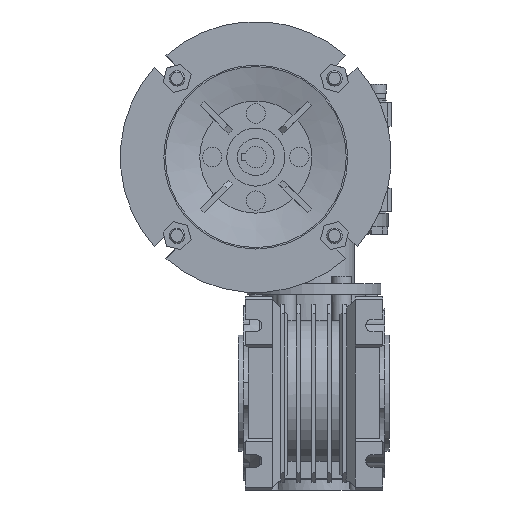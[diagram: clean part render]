
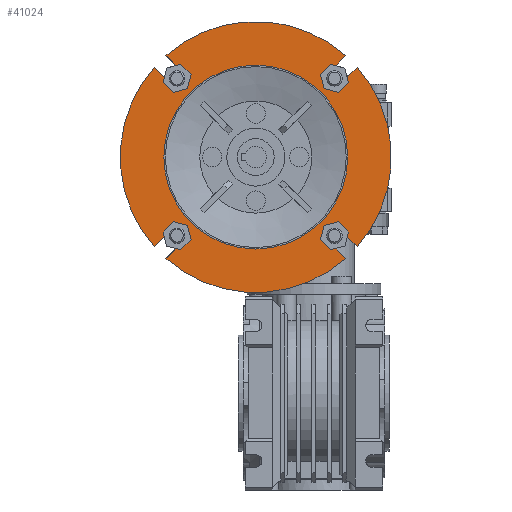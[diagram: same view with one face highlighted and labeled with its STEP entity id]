
A CAD part, front view. The second image highlights one B-rep face of the part: STEP entity #41024.
In plain terms, the highlighted planar face has unit normal (0, -1, 0) as drawn and (1, 0, 0) by its records, which use the part's own axes.
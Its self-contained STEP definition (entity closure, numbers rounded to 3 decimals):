
#1641=CIRCLE('',#43738,70.);
#1642=CIRCLE('',#43740,70.);
#1643=CIRCLE('',#43742,70.);
#1648=CIRCLE('',#43752,70.);
#1649=CIRCLE('',#43754,47.5);
#1650=CIRCLE('',#43755,4.25);
#1651=CIRCLE('',#43756,4.25);
#1652=CIRCLE('',#43757,4.25);
#1653=CIRCLE('',#43758,4.25);
#9638=ORIENTED_EDGE('',*,*,#14190,.F.);
#9639=ORIENTED_EDGE('',*,*,#14191,.T.);
#9640=ORIENTED_EDGE('',*,*,#14188,.T.);
#9641=ORIENTED_EDGE('',*,*,#14192,.T.);
#9642=ORIENTED_EDGE('',*,*,#14193,.F.);
#9643=ORIENTED_EDGE('',*,*,#14194,.T.);
#9644=ORIENTED_EDGE('',*,*,#14174,.T.);
#9645=ORIENTED_EDGE('',*,*,#14195,.T.);
#9646=ORIENTED_EDGE('',*,*,#14196,.F.);
#9647=ORIENTED_EDGE('',*,*,#14197,.T.);
#9648=ORIENTED_EDGE('',*,*,#14181,.T.);
#9649=ORIENTED_EDGE('',*,*,#14198,.T.);
#9650=ORIENTED_EDGE('',*,*,#14199,.F.);
#9651=ORIENTED_EDGE('',*,*,#14200,.T.);
#9652=ORIENTED_EDGE('',*,*,#14178,.T.);
#9653=ORIENTED_EDGE('',*,*,#14201,.T.);
#9654=ORIENTED_EDGE('',*,*,#14202,.F.);
#14174=EDGE_CURVE('',#17097,#17098,#1641,.T.);
#14178=EDGE_CURVE('',#17100,#17099,#1642,.T.);
#14181=EDGE_CURVE('',#17102,#17101,#1643,.T.);
#14188=EDGE_CURVE('',#17108,#17107,#1648,.T.);
#14190=EDGE_CURVE('',#17109,#17109,#1649,.T.);
#14191=EDGE_CURVE('',#17110,#17108,#20107,.T.);
#14192=EDGE_CURVE('',#17107,#17111,#20108,.T.);
#14193=EDGE_CURVE('',#17112,#17111,#1650,.T.);
#14194=EDGE_CURVE('',#17112,#17097,#20109,.T.);
#14195=EDGE_CURVE('',#17098,#17113,#20110,.T.);
#14196=EDGE_CURVE('',#17114,#17113,#1651,.T.);
#14197=EDGE_CURVE('',#17114,#17102,#20111,.T.);
#14198=EDGE_CURVE('',#17101,#17115,#20112,.T.);
#14199=EDGE_CURVE('',#17116,#17115,#1652,.T.);
#14200=EDGE_CURVE('',#17116,#17100,#20113,.T.);
#14201=EDGE_CURVE('',#17099,#17117,#20114,.T.);
#14202=EDGE_CURVE('',#17110,#17117,#1653,.T.);
#17097=VERTEX_POINT('',#61170);
#17098=VERTEX_POINT('',#61171);
#17099=VERTEX_POINT('',#61176);
#17100=VERTEX_POINT('',#61178);
#17101=VERTEX_POINT('',#61182);
#17102=VERTEX_POINT('',#61184);
#17107=VERTEX_POINT('',#61200);
#17108=VERTEX_POINT('',#61202);
#17109=VERTEX_POINT('',#61206);
#17110=VERTEX_POINT('',#61208);
#17111=VERTEX_POINT('',#61210);
#17112=VERTEX_POINT('',#61212);
#17113=VERTEX_POINT('',#61215);
#17114=VERTEX_POINT('',#61217);
#17115=VERTEX_POINT('',#61220);
#17116=VERTEX_POINT('',#61222);
#17117=VERTEX_POINT('',#61225);
#20107=LINE('',#61207,#23141);
#20108=LINE('',#61209,#23142);
#20109=LINE('',#61213,#23143);
#20110=LINE('',#61214,#23144);
#20111=LINE('',#61218,#23145);
#20112=LINE('',#61219,#23146);
#20113=LINE('',#61223,#23147);
#20114=LINE('',#61224,#23148);
#23141=VECTOR('',#51762,1000.);
#23142=VECTOR('',#51763,1000.);
#23143=VECTOR('',#51766,1000.);
#23144=VECTOR('',#51767,1000.);
#23145=VECTOR('',#51770,1000.);
#23146=VECTOR('',#51771,1000.);
#23147=VECTOR('',#51774,1000.);
#23148=VECTOR('',#51775,1000.);
#25017=EDGE_LOOP('',(#9638));
#25018=EDGE_LOOP('',(#9639,#9640,#9641,#9642,#9643,#9644,#9645,#9646,#9647,
#9648,#9649,#9650,#9651,#9652,#9653,#9654));
#26917=FACE_BOUND('',#25017,.T.);
#26918=FACE_BOUND('',#25018,.T.);
#28191=PLANE('',#43753);
#41024=ADVANCED_FACE('',(#26917,#26918),#28191,.F.);
#43738=AXIS2_PLACEMENT_3D('',#61169,#51720,#51721);
#43740=AXIS2_PLACEMENT_3D('',#61177,#51727,#51728);
#43742=AXIS2_PLACEMENT_3D('',#61183,#51733,#51734);
#43752=AXIS2_PLACEMENT_3D('',#61201,#51755,#51756);
#43753=AXIS2_PLACEMENT_3D('',#61204,#51758,#51759);
#43754=AXIS2_PLACEMENT_3D('',#61205,#51760,#51761);
#43755=AXIS2_PLACEMENT_3D('',#61211,#51764,#51765);
#43756=AXIS2_PLACEMENT_3D('',#61216,#51768,#51769);
#43757=AXIS2_PLACEMENT_3D('',#61221,#51772,#51773);
#43758=AXIS2_PLACEMENT_3D('',#61226,#51776,#51777);
#51720=DIRECTION('',(1.,0.,0.));
#51721=DIRECTION('',(0.,0.,-1.));
#51727=DIRECTION('',(1.,0.,0.));
#51728=DIRECTION('',(0.,0.,-1.));
#51733=DIRECTION('',(1.,0.,0.));
#51734=DIRECTION('',(0.,0.,-1.));
#51755=DIRECTION('',(1.,0.,0.));
#51756=DIRECTION('',(0.,0.,-1.));
#51758=DIRECTION('',(-1.,0.,0.));
#51759=DIRECTION('',(0.,0.,1.));
#51760=DIRECTION('',(1.,0.,0.));
#51761=DIRECTION('',(0.,0.,-1.));
#51762=DIRECTION('',(0.,0.707,-0.707));
#51763=DIRECTION('',(0.,-0.707,-0.707));
#51764=DIRECTION('',(1.,0.,0.));
#51765=DIRECTION('',(0.,0.,-1.));
#51766=DIRECTION('',(0.,0.707,0.707));
#51767=DIRECTION('',(0.,0.707,-0.707));
#51768=DIRECTION('',(1.,0.,0.));
#51769=DIRECTION('',(0.,0.,-1.));
#51770=DIRECTION('',(0.,-0.707,0.707));
#51771=DIRECTION('',(0.,0.707,0.707));
#51772=DIRECTION('',(1.,0.,0.));
#51773=DIRECTION('',(0.,0.,-1.));
#51774=DIRECTION('',(0.,-0.707,-0.707));
#51775=DIRECTION('',(0.,-0.707,0.707));
#51776=DIRECTION('',(1.,0.,0.));
#51777=DIRECTION('',(0.,0.,-1.));
#61169=CARTESIAN_POINT('',(20.,0.,0.));
#61170=CARTESIAN_POINT('',(20.,46.401,52.411));
#61171=CARTESIAN_POINT('',(20.,-46.401,52.411));
#61176=CARTESIAN_POINT('',(20.,46.401,-52.411));
#61177=CARTESIAN_POINT('',(20.,0.,0.));
#61178=CARTESIAN_POINT('',(20.,-46.401,-52.411));
#61182=CARTESIAN_POINT('',(20.,-52.411,-46.401));
#61183=CARTESIAN_POINT('',(20.,0.,0.));
#61184=CARTESIAN_POINT('',(20.,-52.411,46.401));
#61200=CARTESIAN_POINT('',(20.,52.411,46.401));
#61201=CARTESIAN_POINT('',(20.,0.,0.));
#61202=CARTESIAN_POINT('',(20.,52.411,-46.401));
#61204=CARTESIAN_POINT('',(20.,70.,0.));
#61205=CARTESIAN_POINT('',(20.,0.,0.));
#61206=CARTESIAN_POINT('',(20.,0.,-47.5));
#61207=CARTESIAN_POINT('',(20.,43.664,-37.653));
#61208=CARTESIAN_POINT('',(20.,43.664,-37.653));
#61209=CARTESIAN_POINT('',(20.,52.411,46.401));
#61210=CARTESIAN_POINT('',(20.,43.664,37.653));
#61211=CARTESIAN_POINT('',(20.,40.659,40.659));
#61212=CARTESIAN_POINT('',(20.,37.653,43.664));
#61213=CARTESIAN_POINT('',(20.,37.653,43.664));
#61214=CARTESIAN_POINT('',(20.,-46.401,52.411));
#61215=CARTESIAN_POINT('',(20.,-37.653,43.664));
#61216=CARTESIAN_POINT('',(20.,-40.659,40.659));
#61217=CARTESIAN_POINT('',(20.,-43.664,37.653));
#61218=CARTESIAN_POINT('',(20.,-43.664,37.653));
#61219=CARTESIAN_POINT('',(20.,-52.411,-46.401));
#61220=CARTESIAN_POINT('',(20.,-43.664,-37.653));
#61221=CARTESIAN_POINT('',(20.,-40.659,-40.659));
#61222=CARTESIAN_POINT('',(20.,-37.653,-43.664));
#61223=CARTESIAN_POINT('',(20.,-37.653,-43.664));
#61224=CARTESIAN_POINT('',(20.,46.401,-52.411));
#61225=CARTESIAN_POINT('',(20.,37.653,-43.664));
#61226=CARTESIAN_POINT('',(20.,40.659,-40.659));
